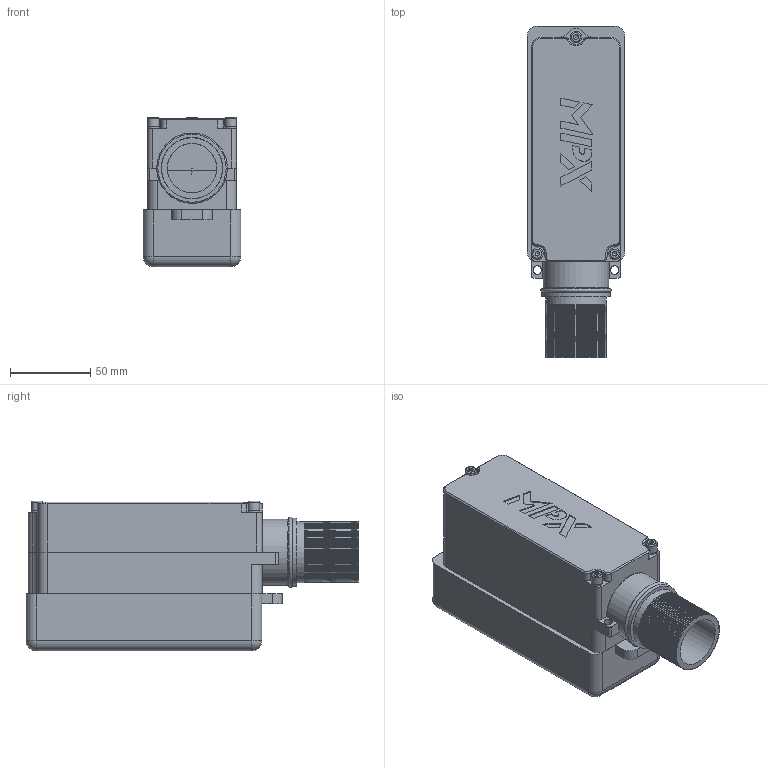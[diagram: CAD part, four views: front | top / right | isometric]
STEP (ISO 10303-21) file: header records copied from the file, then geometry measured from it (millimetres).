
FILE_DESCRIPTION((''),'2;1');
FILE_NAME('C:\old_Drawings\shrinkwrapped website .stp files\562030-STP.stp','2011-11-01T14:25:21',('GaryRobinson'),(''),'Autodesk Inventor 2011','Autodesk Inventor 2011','');
FILE_SCHEMA(('AUTOMOTIVE_DESIGN { 1 0 10303 214 1 1 1 1 }'));
Length unit declared in the file: inch
Products named in the file (1): 562030-STP
Bounding box: 60.96 x 206.96 x 93.24 mm (x, y, z)
Surface area: 152275.5 mm2 (no closed solid volume)
Topology: 0 solids, 34 shells, 1028 faces, 2379 edges, 1431 vertices
Faces by surface type: plane 382, cylinder 323, cone 280, torus 27, bspline 8, sphere 8
Full cylindrical faces by diameter (mm): 0.005 x2, 0.025 x6, 2.159 x2, 2.845 x6, 2.87 x3, 2.896 x3, 3.175 x3, 3.302 x3, 3.429 x2, 3.505 x9, 4.166 x10, 4.318 x3, 4.496 x3, 4.648 x2, 4.75 x1, 4.775 x1, 4.826 x4, 4.928 x2, 5.207 x2, 6.426 x4, 7.144 x3, 7.188 x3, 30.785 x1, 37.973 x104, 38.113 x2, 38.735 x1, 40.945 x3, 42.545 x1
Entity records: 30922 total; most frequent: CARTESIAN_POINT 8011, DIRECTION 4748, ORIENTED_EDGE 3750, AXIS2_PLACEMENT_3D 1914, EDGE_CURVE 1875, EDGE_LOOP 1558, VERTEX_POINT 1391, FACE_OUTER_BOUND 1028
